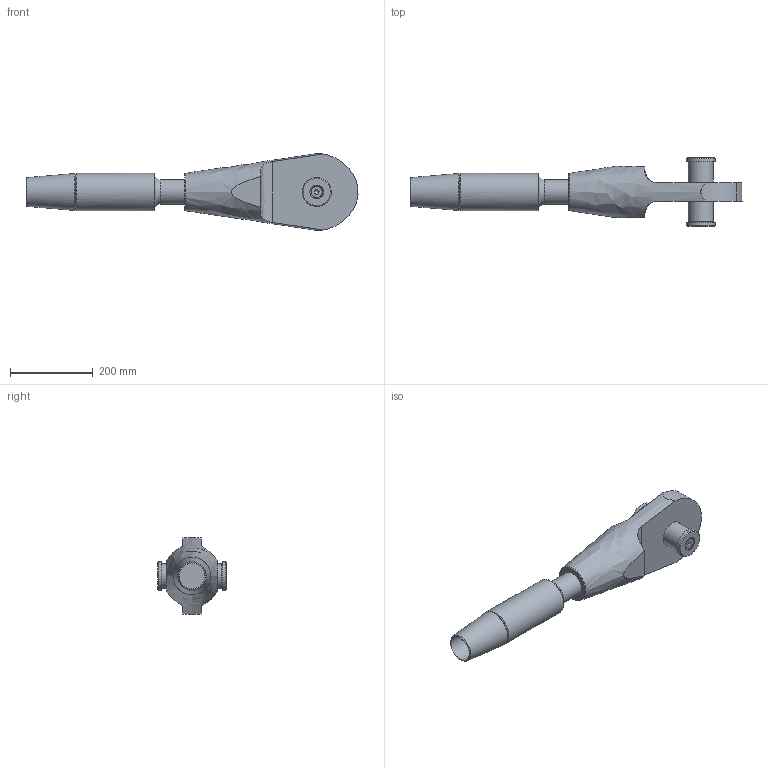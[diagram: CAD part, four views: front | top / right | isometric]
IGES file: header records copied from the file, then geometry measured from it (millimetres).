
Global section: file name: 520-060-OES-ADA; native system: Autodesk Inventor 2020; preprocessor: unknown; author: Administrator; date: 20201007.154046; units: millimetre
Bounding box: 803.86 x 166 x 185.65 mm (x, y, z)
Volume: 6129537.8 mm3; surface area: 390034.6 mm2
Topology: 6 solids, 6 shells, 57 faces, 136 edges, 94 vertices
Faces by surface type: bspline 57
